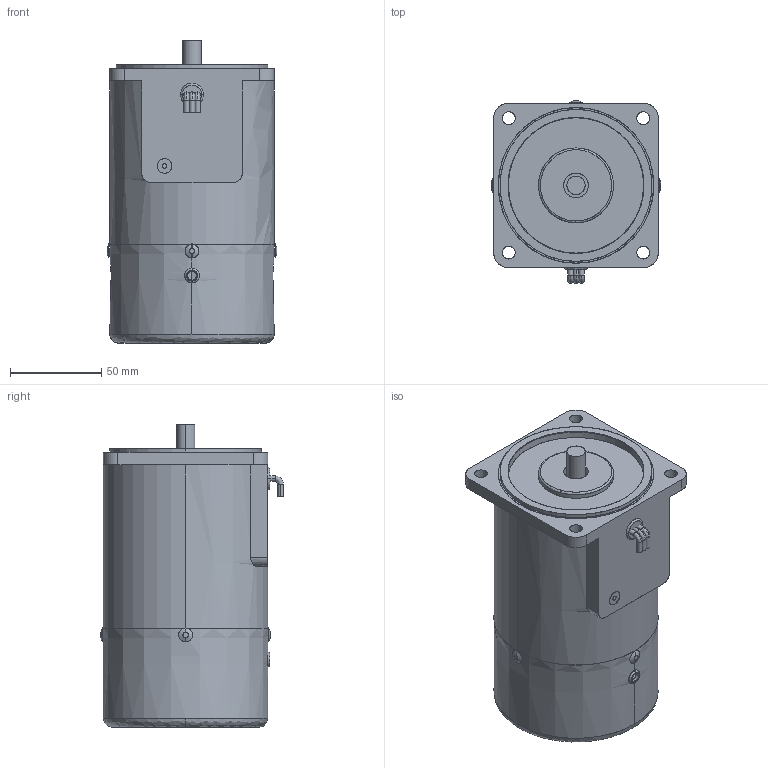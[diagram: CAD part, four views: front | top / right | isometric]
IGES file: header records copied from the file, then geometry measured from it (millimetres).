
Start section: SolidWorks IGES file using analytic representation for surfaces
Bounding box: 93 x 100 x 165.5 mm (x, y, z)
Surface area: 133559.6 mm2 (no closed solid volume)
Topology: 0 solids, 0 shells, 161 faces, 3956 edges, 3956 vertices
Faces by surface type: revolution 92, bspline 69
